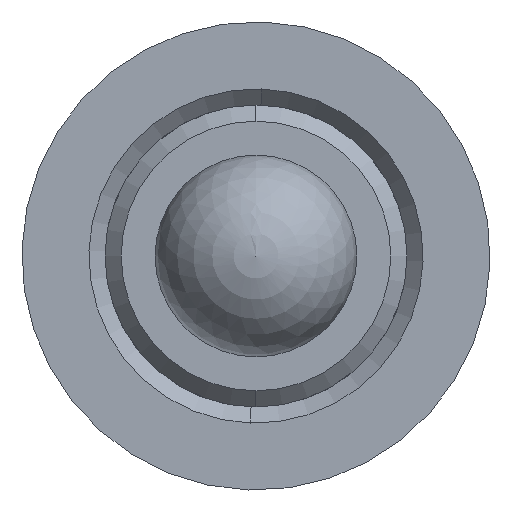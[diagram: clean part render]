
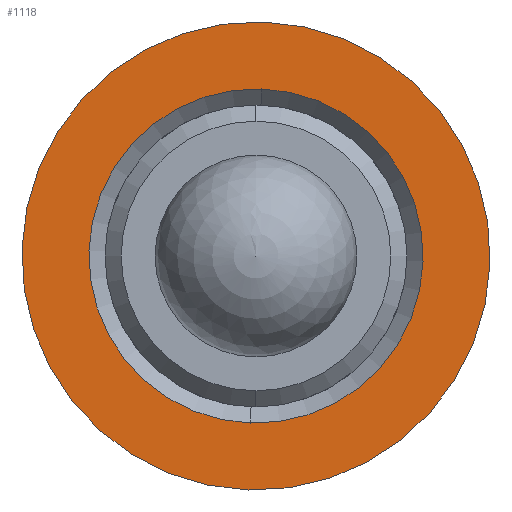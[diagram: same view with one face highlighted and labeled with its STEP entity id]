
A CAD part, left-side view. The second image highlights one B-rep face of the part: STEP entity #1118.
In plain terms, the highlighted planar face has unit normal (-1, 0, 0).
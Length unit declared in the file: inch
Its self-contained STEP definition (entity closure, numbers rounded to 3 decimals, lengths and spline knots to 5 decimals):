
#16 = AXIS2_PLACEMENT_3D ( 'NONE', #975, #243, #27 ) ;
#27 = DIRECTION ( 'NONE',  ( 0., -0.033, 0.999 ) ) ;
#31 = VERTEX_POINT ( 'NONE', #478 ) ;
#73 = VERTEX_POINT ( 'NONE', #264 ) ;
#81 = CARTESIAN_POINT ( 'NONE',  ( 0.02205, 0.7604, 0.96523 ) ) ;
#153 = FACE_OUTER_BOUND ( 'NONE', #1573, .T. ) ;
#180 = VERTEX_POINT ( 'NONE', #920 ) ;
#216 = PLANE ( 'NONE',  #997 ) ;
#243 = DIRECTION ( 'NONE',  ( -1., 0., 0. ) ) ;
#264 = CARTESIAN_POINT ( 'NONE',  ( 0.02205, 0.76379, 0.86179 ) ) ;
#293 = EDGE_CURVE ( 'NONE', #31, #180, #1058, .T. ) ;
#313 = CIRCLE ( 'NONE', #903, 0.1035 ) ;
#359 = ORIENTED_EDGE ( 'NONE', *, *, #591, .T. ) ;
#376 = CARTESIAN_POINT ( 'NONE',  ( 0.02205, 0.7604, 0.96523 ) ) ;
#395 = DIRECTION ( 'NONE',  ( 0., 0.033, -0.999 ) ) ;
#402 = DIRECTION ( 'NONE',  ( 0., 0.033, -0.999 ) ) ;
#472 = CIRCLE ( 'NONE', #16, 0.145 ) ;
#478 = CARTESIAN_POINT ( 'NONE',  ( 0.02205, 0.76515, 0.82031 ) ) ;
#482 = DIRECTION ( 'NONE',  ( -1., 0., 0. ) ) ;
#510 = EDGE_CURVE ( 'NONE', #180, #31, #472, .T. ) ;
#537 = VERTEX_POINT ( 'NONE', #1441 ) ;
#591 = EDGE_CURVE ( 'NONE', #537, #73, #1200, .T. ) ;
#595 = CARTESIAN_POINT ( 'NONE',  ( 0.02205, 0.7604, 0.96523 ) ) ;
#600 = ORIENTED_EDGE ( 'NONE', *, *, #293, .T. ) ;
#642 = DIRECTION ( 'NONE',  ( 1., 0., 0. ) ) ;
#766 = FACE_BOUND ( 'NONE', #1339, .T. ) ;
#828 = ORIENTED_EDGE ( 'NONE', *, *, #1498, .T. ) ;
#838 = AXIS2_PLACEMENT_3D ( 'NONE', #81, #482, #1409 ) ;
#903 = AXIS2_PLACEMENT_3D ( 'NONE', #1279, #1332, #1340 ) ;
#920 = CARTESIAN_POINT ( 'NONE',  ( 0.02205, 0.75565, 1.11016 ) ) ;
#975 = CARTESIAN_POINT ( 'NONE',  ( 0.02205, 0.7604, 0.96523 ) ) ;
#997 = AXIS2_PLACEMENT_3D ( 'NONE', #595, #642, #402 ) ;
#1058 = CIRCLE ( 'NONE', #838, 0.145 ) ;
#1118 = ADVANCED_FACE ( 'NONE', ( #766, #153 ), #216, .F. ) ;
#1175 = ORIENTED_EDGE ( 'NONE', *, *, #510, .T. ) ;
#1196 = AXIS2_PLACEMENT_3D ( 'NONE', #376, #1300, #395 ) ;
#1200 = CIRCLE ( 'NONE', #1196, 0.1035 ) ;
#1279 = CARTESIAN_POINT ( 'NONE',  ( 0.02205, 0.7604, 0.96523 ) ) ;
#1300 = DIRECTION ( 'NONE',  ( 1., 0., 0. ) ) ;
#1332 = DIRECTION ( 'NONE',  ( 1., 0., 0. ) ) ;
#1339 = EDGE_LOOP ( 'NONE', ( #359, #828 ) ) ;
#1340 = DIRECTION ( 'NONE',  ( 0., 0.033, -0.999 ) ) ;
#1409 = DIRECTION ( 'NONE',  ( 0., -0.033, 0.999 ) ) ;
#1441 = CARTESIAN_POINT ( 'NONE',  ( 0.02205, 0.75701, 1.06868 ) ) ;
#1498 = EDGE_CURVE ( 'NONE', #73, #537, #313, .T. ) ;
#1573 = EDGE_LOOP ( 'NONE', ( #1175, #600 ) ) ;
